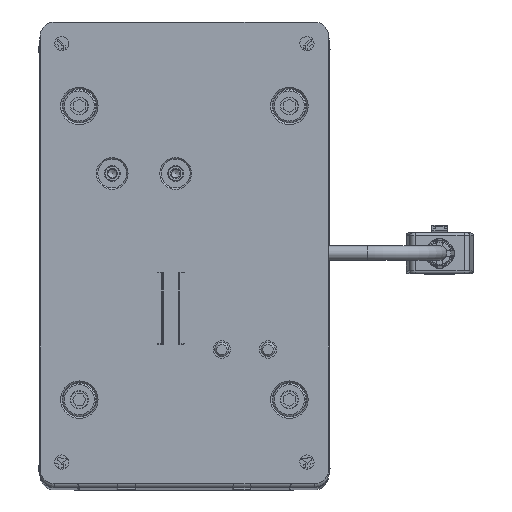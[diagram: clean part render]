
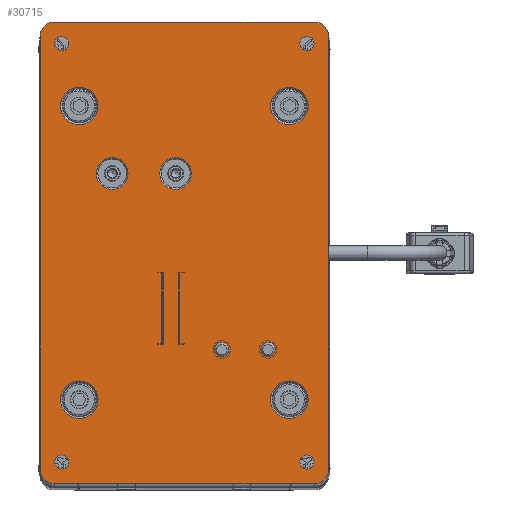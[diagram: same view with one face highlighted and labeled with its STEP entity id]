
A CAD part, top view. The second image highlights one B-rep face of the part: STEP entity #30715.
In plain terms, the highlighted planar face has unit normal (0, 0, 1).
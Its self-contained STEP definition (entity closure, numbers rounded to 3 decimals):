
#2220=CIRCLE('',#37807,5.);
#2222=CIRCLE('',#37811,5.);
#2224=CIRCLE('',#37815,5.);
#2226=CIRCLE('',#37819,5.);
#2227=CIRCLE('',#37822,5.5);
#2228=CIRCLE('',#37823,5.5);
#2229=CIRCLE('',#37824,2.459);
#2230=CIRCLE('',#37825,2.459);
#2231=CIRCLE('',#37826,6.5);
#2232=CIRCLE('',#37827,6.5);
#2233=CIRCLE('',#37828,6.5);
#2234=CIRCLE('',#37829,6.5);
#2235=CIRCLE('',#37830,2.459);
#2236=CIRCLE('',#37831,2.459);
#2237=CIRCLE('',#37832,2.459);
#2238=CIRCLE('',#37833,2.459);
#8910=ORIENTED_EDGE('',*,*,#14608,.T.);
#8911=ORIENTED_EDGE('',*,*,#14609,.T.);
#8912=ORIENTED_EDGE('',*,*,#14610,.F.);
#8913=ORIENTED_EDGE('',*,*,#14611,.F.);
#8914=ORIENTED_EDGE('',*,*,#14612,.T.);
#8915=ORIENTED_EDGE('',*,*,#14613,.T.);
#8916=ORIENTED_EDGE('',*,*,#14614,.T.);
#8917=ORIENTED_EDGE('',*,*,#14615,.T.);
#8918=ORIENTED_EDGE('',*,*,#14616,.F.);
#8919=ORIENTED_EDGE('',*,*,#14617,.F.);
#8920=ORIENTED_EDGE('',*,*,#14618,.F.);
#8921=ORIENTED_EDGE('',*,*,#14619,.F.);
#8922=ORIENTED_EDGE('',*,*,#14586,.T.);
#8923=ORIENTED_EDGE('',*,*,#14590,.T.);
#8924=ORIENTED_EDGE('',*,*,#14593,.T.);
#8925=ORIENTED_EDGE('',*,*,#14596,.T.);
#8926=ORIENTED_EDGE('',*,*,#14599,.T.);
#8927=ORIENTED_EDGE('',*,*,#14602,.T.);
#8928=ORIENTED_EDGE('',*,*,#14605,.T.);
#8929=ORIENTED_EDGE('',*,*,#14607,.T.);
#14586=EDGE_CURVE('',#17948,#17947,#2220,.T.);
#14590=EDGE_CURVE('',#17947,#17950,#20826,.T.);
#14593=EDGE_CURVE('',#17950,#17952,#2222,.T.);
#14596=EDGE_CURVE('',#17952,#17954,#20830,.T.);
#14599=EDGE_CURVE('',#17954,#17956,#2224,.T.);
#14602=EDGE_CURVE('',#17956,#17958,#20834,.T.);
#14605=EDGE_CURVE('',#17958,#17960,#2226,.T.);
#14607=EDGE_CURVE('',#17960,#17948,#20837,.T.);
#14608=EDGE_CURVE('',#17961,#17961,#2227,.T.);
#14609=EDGE_CURVE('',#17962,#17962,#2228,.T.);
#14610=EDGE_CURVE('',#17963,#17963,#2229,.T.);
#14611=EDGE_CURVE('',#17964,#17964,#2230,.T.);
#14612=EDGE_CURVE('',#17965,#17965,#2231,.T.);
#14613=EDGE_CURVE('',#17966,#17966,#2232,.T.);
#14614=EDGE_CURVE('',#17967,#17967,#2233,.T.);
#14615=EDGE_CURVE('',#17968,#17968,#2234,.T.);
#14616=EDGE_CURVE('',#17969,#17969,#2235,.T.);
#14617=EDGE_CURVE('',#17970,#17970,#2236,.T.);
#14618=EDGE_CURVE('',#17971,#17971,#2237,.T.);
#14619=EDGE_CURVE('',#17972,#17972,#2238,.T.);
#17947=VERTEX_POINT('',#55355);
#17948=VERTEX_POINT('',#55357);
#17950=VERTEX_POINT('',#55363);
#17952=VERTEX_POINT('',#55369);
#17954=VERTEX_POINT('',#55375);
#17956=VERTEX_POINT('',#55381);
#17958=VERTEX_POINT('',#55387);
#17960=VERTEX_POINT('',#55393);
#17961=VERTEX_POINT('',#55400);
#17962=VERTEX_POINT('',#55402);
#17963=VERTEX_POINT('',#55404);
#17964=VERTEX_POINT('',#55406);
#17965=VERTEX_POINT('',#55408);
#17966=VERTEX_POINT('',#55410);
#17967=VERTEX_POINT('',#55412);
#17968=VERTEX_POINT('',#55414);
#17969=VERTEX_POINT('',#55416);
#17970=VERTEX_POINT('',#55418);
#17971=VERTEX_POINT('',#55420);
#17972=VERTEX_POINT('',#55422);
#20826=LINE('',#55364,#23606);
#20830=LINE('',#55376,#23610);
#20834=LINE('',#55388,#23614);
#20837=LINE('',#55397,#23617);
#23606=VECTOR('',#45016,1000.);
#23610=VECTOR('',#45028,1000.);
#23614=VECTOR('',#45040,1000.);
#23617=VECTOR('',#45051,1000.);
#25801=EDGE_LOOP('',(#8910));
#25802=EDGE_LOOP('',(#8911));
#25803=EDGE_LOOP('',(#8912));
#25804=EDGE_LOOP('',(#8913));
#25805=EDGE_LOOP('',(#8914));
#25806=EDGE_LOOP('',(#8915));
#25807=EDGE_LOOP('',(#8916));
#25808=EDGE_LOOP('',(#8917));
#25809=EDGE_LOOP('',(#8918));
#25810=EDGE_LOOP('',(#8919));
#25811=EDGE_LOOP('',(#8920));
#25812=EDGE_LOOP('',(#8921));
#25813=EDGE_LOOP('',(#8922,#8923,#8924,#8925,#8926,#8927,#8928,#8929));
#27865=FACE_BOUND('',#25801,.T.);
#27866=FACE_BOUND('',#25802,.T.);
#27867=FACE_BOUND('',#25803,.T.);
#27868=FACE_BOUND('',#25804,.T.);
#27869=FACE_BOUND('',#25805,.T.);
#27870=FACE_BOUND('',#25806,.T.);
#27871=FACE_BOUND('',#25807,.T.);
#27872=FACE_BOUND('',#25808,.T.);
#27873=FACE_BOUND('',#25809,.T.);
#27874=FACE_BOUND('',#25810,.T.);
#27875=FACE_BOUND('',#25811,.T.);
#27876=FACE_BOUND('',#25812,.T.);
#27877=FACE_BOUND('',#25813,.T.);
#29197=PLANE('',#37821);
#30715=ADVANCED_FACE('',(#27865,#27866,#27867,#27868,#27869,#27870,#27871,
#27872,#27873,#27874,#27875,#27876,#27877),#29197,.T.);
#37807=AXIS2_PLACEMENT_3D('',#55356,#45009,#45010);
#37811=AXIS2_PLACEMENT_3D('',#55370,#45022,#45023);
#37815=AXIS2_PLACEMENT_3D('',#55382,#45034,#45035);
#37819=AXIS2_PLACEMENT_3D('',#55394,#45046,#45047);
#37821=AXIS2_PLACEMENT_3D('',#55398,#45052,#45053);
#37822=AXIS2_PLACEMENT_3D('',#55399,#45054,#45055);
#37823=AXIS2_PLACEMENT_3D('',#55401,#45056,#45057);
#37824=AXIS2_PLACEMENT_3D('',#55403,#45058,#45059);
#37825=AXIS2_PLACEMENT_3D('',#55405,#45060,#45061);
#37826=AXIS2_PLACEMENT_3D('',#55407,#45062,#45063);
#37827=AXIS2_PLACEMENT_3D('',#55409,#45064,#45065);
#37828=AXIS2_PLACEMENT_3D('',#55411,#45066,#45067);
#37829=AXIS2_PLACEMENT_3D('',#55413,#45068,#45069);
#37830=AXIS2_PLACEMENT_3D('',#55415,#45070,#45071);
#37831=AXIS2_PLACEMENT_3D('',#55417,#45072,#45073);
#37832=AXIS2_PLACEMENT_3D('',#55419,#45074,#45075);
#37833=AXIS2_PLACEMENT_3D('',#55421,#45076,#45077);
#45009=DIRECTION('',(0.,0.,1.));
#45010=DIRECTION('',(1.,0.,0.));
#45016=DIRECTION('',(1.,0.,0.));
#45022=DIRECTION('',(0.,0.,1.));
#45023=DIRECTION('',(-1.,0.,0.));
#45028=DIRECTION('',(0.,1.,0.));
#45034=DIRECTION('',(0.,0.,1.));
#45035=DIRECTION('',(1.,0.,0.));
#45040=DIRECTION('',(-1.,0.,0.));
#45046=DIRECTION('',(0.,0.,1.));
#45047=DIRECTION('',(1.,0.,0.));
#45051=DIRECTION('',(0.,-1.,0.));
#45052=DIRECTION('',(0.,0.,1.));
#45053=DIRECTION('',(1.,0.,0.));
#45054=DIRECTION('',(0.,0.,-1.));
#45055=DIRECTION('',(0.,1.,0.));
#45056=DIRECTION('',(0.,0.,-1.));
#45057=DIRECTION('',(0.,1.,0.));
#45058=DIRECTION('',(0.,0.,1.));
#45059=DIRECTION('',(1.,0.,0.));
#45060=DIRECTION('',(0.,0.,1.));
#45061=DIRECTION('',(1.,0.,0.));
#45062=DIRECTION('',(0.,0.,-1.));
#45063=DIRECTION('',(1.,0.,0.));
#45064=DIRECTION('',(0.,0.,-1.));
#45065=DIRECTION('',(1.,0.,0.));
#45066=DIRECTION('',(0.,0.,-1.));
#45067=DIRECTION('',(1.,0.,0.));
#45068=DIRECTION('',(0.,0.,-1.));
#45069=DIRECTION('',(1.,0.,0.));
#45070=DIRECTION('',(0.,0.,1.));
#45071=DIRECTION('',(1.,0.,0.));
#45072=DIRECTION('',(0.,0.,1.));
#45073=DIRECTION('',(1.,0.,0.));
#45074=DIRECTION('',(0.,0.,1.));
#45075=DIRECTION('',(1.,0.,0.));
#45076=DIRECTION('',(0.,0.,1.));
#45077=DIRECTION('',(1.,0.,0.));
#55355=CARTESIAN_POINT('',(-75.,-50.,8.));
#55356=CARTESIAN_POINT('',(-75.,-45.,8.));
#55357=CARTESIAN_POINT('',(-80.,-45.,8.));
#55363=CARTESIAN_POINT('',(75.,-50.,8.));
#55364=CARTESIAN_POINT('',(-75.,-50.,8.));
#55369=CARTESIAN_POINT('',(80.,-45.,8.));
#55370=CARTESIAN_POINT('',(75.,-45.,8.));
#55375=CARTESIAN_POINT('',(80.,45.,8.));
#55376=CARTESIAN_POINT('',(80.,-45.,8.));
#55381=CARTESIAN_POINT('',(75.,50.,8.));
#55382=CARTESIAN_POINT('',(75.,45.,8.));
#55387=CARTESIAN_POINT('',(-75.,50.,8.));
#55388=CARTESIAN_POINT('',(75.,50.,8.));
#55393=CARTESIAN_POINT('',(-80.,45.,8.));
#55394=CARTESIAN_POINT('',(-75.,45.,8.));
#55397=CARTESIAN_POINT('',(-80.,45.,8.));
#55398=CARTESIAN_POINT('',(-75.,-45.,8.));
#55399=CARTESIAN_POINT('',(27.5,3.,8.));
#55400=CARTESIAN_POINT('',(27.5,8.5,8.));
#55401=CARTESIAN_POINT('',(27.5,25.,8.));
#55402=CARTESIAN_POINT('',(27.5,30.5,8.));
#55403=CARTESIAN_POINT('',(-33.5,-13.,8.));
#55404=CARTESIAN_POINT('',(-31.042,-13.,8.));
#55405=CARTESIAN_POINT('',(-33.5,-29.,8.));
#55406=CARTESIAN_POINT('',(-31.042,-29.,8.));
#55407=CARTESIAN_POINT('',(-50.9,-36.4,8.));
#55408=CARTESIAN_POINT('',(-44.4,-36.4,8.));
#55409=CARTESIAN_POINT('',(50.9,-36.4,8.));
#55410=CARTESIAN_POINT('',(57.4,-36.4,8.));
#55411=CARTESIAN_POINT('',(50.9,36.4,8.));
#55412=CARTESIAN_POINT('',(57.4,36.4,8.));
#55413=CARTESIAN_POINT('',(-50.9,36.4,8.));
#55414=CARTESIAN_POINT('',(-44.4,36.4,8.));
#55415=CARTESIAN_POINT('',(-72.5,-42.5,8.));
#55416=CARTESIAN_POINT('',(-70.042,-42.5,8.));
#55417=CARTESIAN_POINT('',(72.5,-42.5,8.));
#55418=CARTESIAN_POINT('',(74.959,-42.5,8.));
#55419=CARTESIAN_POINT('',(72.5,42.5,8.));
#55420=CARTESIAN_POINT('',(74.959,42.5,8.));
#55421=CARTESIAN_POINT('',(-72.5,42.5,8.));
#55422=CARTESIAN_POINT('',(-70.042,42.5,8.));
